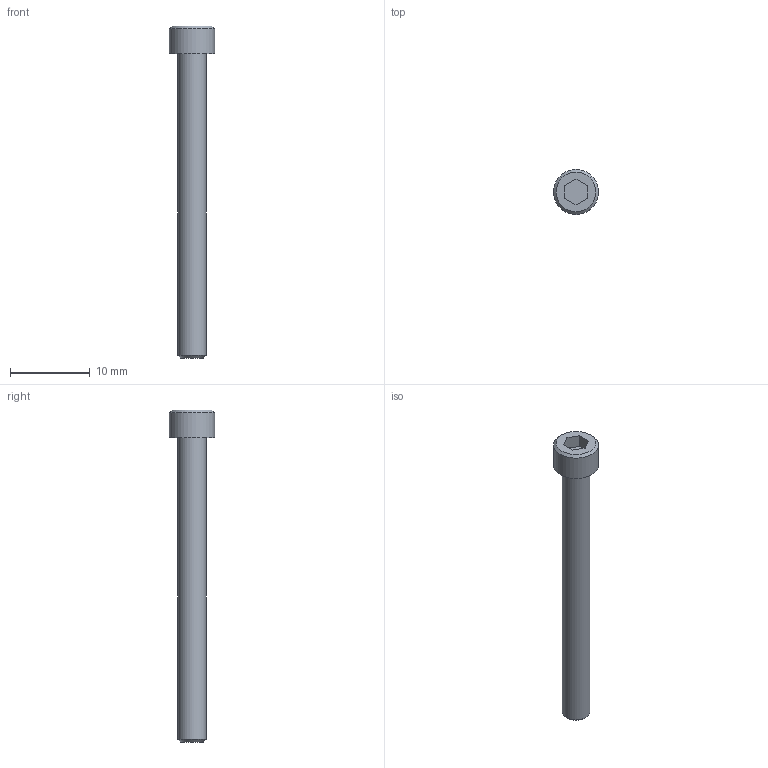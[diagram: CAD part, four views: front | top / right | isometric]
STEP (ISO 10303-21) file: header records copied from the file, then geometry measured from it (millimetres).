
FILE_DESCRIPTION((''),'2;1');
FILE_NAME('C:\Users\Stan\Desktop\import\SHCS 6-32 UNCx1.5.ipt.step','2011-08-18T17:44:47',(''),(''),'Autodesk Inventor 2012','Autodesk Inventor 2012','');
FILE_SCHEMA(('AUTOMOTIVE_DESIGN { 1 0 10303 214 1 1 1 1 }'));
Length unit declared in the file: inch
Products named in the file (1): SHCS 6-32 UNCx1.5
Bounding box: 5.64 x 5.64 x 41.55 mm (x, y, z)
Volume: 441.6 mm3; surface area: 540.4 mm2
Topology: 1 solids, 1 shells, 14 faces, 28 edges, 18 vertices
Faces by surface type: plane 10, cone 2, cylinder 2
Full cylindrical faces by diameter (mm): 3.505 x1, 5.639 x1
Entity records: 391 total; most frequent: DIRECTION 60, CARTESIAN_POINT 57, ORIENTED_EDGE 48, EDGE_CURVE 24, AXIS2_PLACEMENT_3D 21, EDGE_LOOP 20, VERTEX_POINT 18, VECTOR 18
